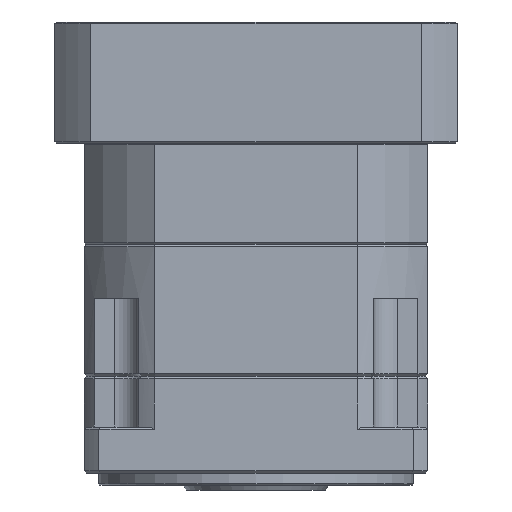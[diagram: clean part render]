
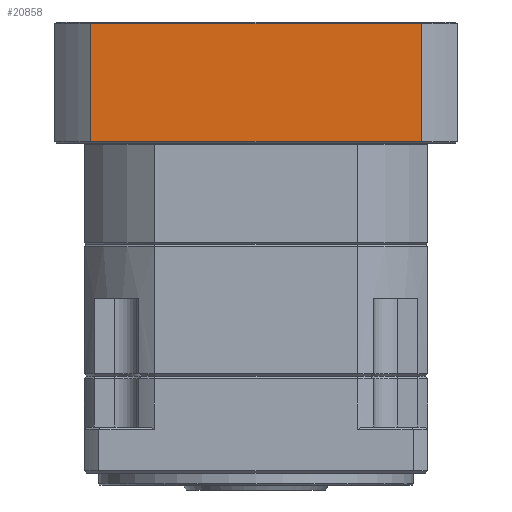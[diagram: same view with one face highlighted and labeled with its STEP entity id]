
A CAD part, front view. The second image highlights one B-rep face of the part: STEP entity #20858.
In plain terms, the highlighted planar face has unit normal (0, -1, 0).
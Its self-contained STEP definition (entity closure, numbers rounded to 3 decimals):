
#2400 = CARTESIAN_POINT ( 'NONE',  ( -40.086, -2.674, 48.146 ) ) ;
#2602 = CARTESIAN_POINT ( 'NONE',  ( -25.404, -2.674, 48.646 ) ) ;
#7519 = ORIENTED_EDGE ( 'NONE', *, *, #108621, .T. ) ;
#7764 = EDGE_CURVE ( 'NONE', #52978, #53744, #47554, .T. ) ;
#8685 = DIRECTION ( 'NONE',  ( 1., 0., 0. ) ) ;
#8914 = EDGE_LOOP ( 'NONE', ( #12763, #7519, #52160, #45006 ) ) ;
#12763 = ORIENTED_EDGE ( 'NONE', *, *, #84352, .F. ) ;
#12916 = DIRECTION ( 'NONE',  ( 0., 1., 0. ) ) ;
#20858 = ADVANCED_FACE ( 'NONE', ( #54609 ), #124589, .F. ) ;
#23144 = DIRECTION ( 'NONE',  ( 1., 0., 0. ) ) ;
#26131 = LINE ( 'NONE', #34276, #129668 ) ;
#27079 = VERTEX_POINT ( 'NONE', #118063 ) ;
#27670 = CARTESIAN_POINT ( 'NONE',  ( -176.721, -2.674, 48.146 ) ) ;
#32022 = CARTESIAN_POINT ( 'NONE',  ( -25.404, -2.674, 48.146 ) ) ;
#34276 = CARTESIAN_POINT ( 'NONE',  ( -40.086, -2.674, -308.45 ) ) ;
#39784 = AXIS2_PLACEMENT_3D ( 'NONE', #2602, #12916, #23144 ) ;
#43038 = EDGE_CURVE ( 'NONE', #53744, #27079, #26131, .T. ) ;
#44019 = VECTOR ( 'NONE', #8685, 1000. ) ;
#45006 = ORIENTED_EDGE ( 'NONE', *, *, #7764, .F. ) ;
#46223 = CARTESIAN_POINT ( 'NONE',  ( -176.721, -2.674, -0.854 ) ) ;
#47554 = LINE ( 'NONE', #32022, #109604 ) ;
#50005 = DIRECTION ( 'NONE',  ( 0., 0., 1. ) ) ;
#52160 = ORIENTED_EDGE ( 'NONE', *, *, #43038, .F. ) ;
#52978 = VERTEX_POINT ( 'NONE', #27670 ) ;
#53744 = VERTEX_POINT ( 'NONE', #2400 ) ;
#54609 = FACE_OUTER_BOUND ( 'NONE', #8914, .T. ) ;
#58304 = LINE ( 'NONE', #102452, #109240 ) ;
#72090 = DIRECTION ( 'NONE',  ( 1., 0., 0. ) ) ;
#84352 = EDGE_CURVE ( 'NONE', #88984, #52978, #58304, .T. ) ;
#88984 = VERTEX_POINT ( 'NONE', #46223 ) ;
#102452 = CARTESIAN_POINT ( 'NONE',  ( -176.721, -2.674, 48.646 ) ) ;
#102831 = LINE ( 'NONE', #111551, #44019 ) ;
#108621 = EDGE_CURVE ( 'NONE', #88984, #27079, #102831, .T. ) ;
#109240 = VECTOR ( 'NONE', #50005, 1000. ) ;
#109604 = VECTOR ( 'NONE', #72090, 1000. ) ;
#111551 = CARTESIAN_POINT ( 'NONE',  ( -25.404, -2.674, -0.854 ) ) ;
#116554 = DIRECTION ( 'NONE',  ( 0., 0., -1. ) ) ;
#118063 = CARTESIAN_POINT ( 'NONE',  ( -40.086, -2.674, -0.854 ) ) ;
#124589 = PLANE ( 'NONE',  #39784 ) ;
#129668 = VECTOR ( 'NONE', #116554, 1000. ) ;
